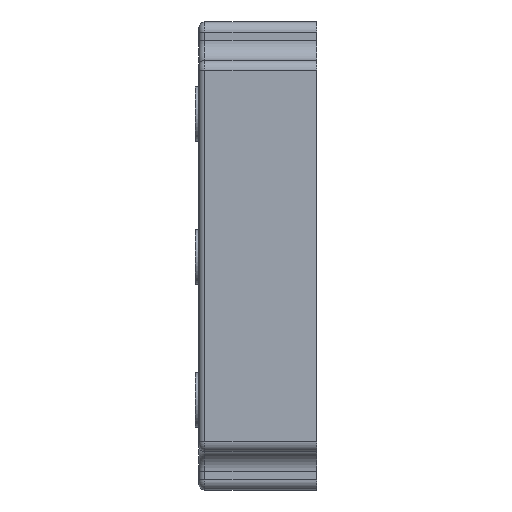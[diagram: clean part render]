
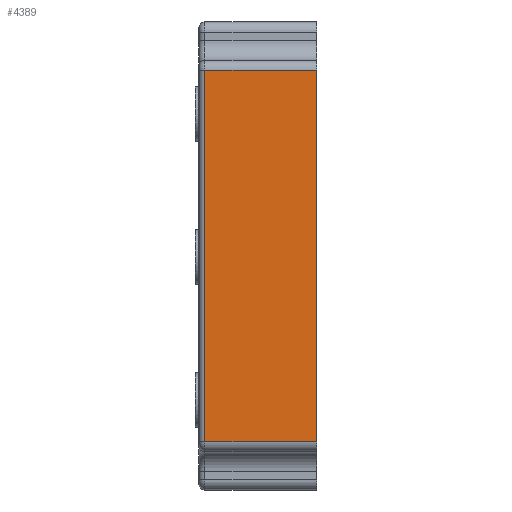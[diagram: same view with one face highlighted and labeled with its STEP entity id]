
A CAD part, left-side view. The second image highlights one B-rep face of the part: STEP entity #4389.
In plain terms, the highlighted planar face has unit normal (-1, 0, 0).
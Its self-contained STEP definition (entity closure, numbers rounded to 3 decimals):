
#167 = VECTOR ( 'NONE', #1446, 1000. ) ;
#204 = LINE ( 'NONE', #5096, #700 ) ;
#244 = FACE_OUTER_BOUND ( 'NONE', #3914, .T. ) ;
#310 = CARTESIAN_POINT ( 'NONE',  ( -137.5, -3., -92. ) ) ;
#332 = VERTEX_POINT ( 'NONE', #4521 ) ;
#359 = LINE ( 'NONE', #310, #167 ) ;
#634 = LINE ( 'NONE', #4848, #4259 ) ;
#700 = VECTOR ( 'NONE', #1145, 1000. ) ;
#1145 = DIRECTION ( 'NONE',  ( 0., 1., 0. ) ) ;
#1209 = DIRECTION ( 'NONE',  ( 0., 0., -1. ) ) ;
#1234 = VECTOR ( 'NONE', #2105, 1000. ) ;
#1372 = VERTEX_POINT ( 'NONE', #4178 ) ;
#1374 = AXIS2_PLACEMENT_3D ( 'NONE', #2645, #1430, #4630 ) ;
#1430 = DIRECTION ( 'NONE',  ( -1., 0., 0. ) ) ;
#1446 = DIRECTION ( 'NONE',  ( 0., 0., -1. ) ) ;
#1886 = ORIENTED_EDGE ( 'NONE', *, *, #4192, .F. ) ;
#1888 = ORIENTED_EDGE ( 'NONE', *, *, #2894, .T. ) ;
#2105 = DIRECTION ( 'NONE',  ( 0., 1., 0. ) ) ;
#2633 = PLANE ( 'NONE',  #1374 ) ;
#2645 = CARTESIAN_POINT ( 'NONE',  ( -137.5, -7.5, 92. ) ) ;
#2839 = ORIENTED_EDGE ( 'NONE', *, *, #3060, .F. ) ;
#2894 = EDGE_CURVE ( 'NONE', #332, #1372, #204, .T. ) ;
#3060 = EDGE_CURVE ( 'NONE', #332, #4707, #634, .T. ) ;
#3366 = CARTESIAN_POINT ( 'NONE',  ( -137.5, -3., -92. ) ) ;
#3370 = LINE ( 'NONE', #4520, #1234 ) ;
#3628 = CARTESIAN_POINT ( 'NONE',  ( -137.5, -58.5, -92. ) ) ;
#3914 = EDGE_LOOP ( 'NONE', ( #1888, #4395, #1886, #2839 ) ) ;
#4178 = CARTESIAN_POINT ( 'NONE',  ( -137.5, -3., 92. ) ) ;
#4192 = EDGE_CURVE ( 'NONE', #4707, #4847, #3370, .T. ) ;
#4259 = VECTOR ( 'NONE', #1209, 1000. ) ;
#4389 = ADVANCED_FACE ( 'NONE', ( #244 ), #2633, .T. ) ;
#4395 = ORIENTED_EDGE ( 'NONE', *, *, #5070, .T. ) ;
#4520 = CARTESIAN_POINT ( 'NONE',  ( -137.5, -7.5, -92. ) ) ;
#4521 = CARTESIAN_POINT ( 'NONE',  ( -137.5, -58.5, 92. ) ) ;
#4630 = DIRECTION ( 'NONE',  ( 0., 0., 1. ) ) ;
#4707 = VERTEX_POINT ( 'NONE', #3628 ) ;
#4847 = VERTEX_POINT ( 'NONE', #3366 ) ;
#4848 = CARTESIAN_POINT ( 'NONE',  ( -137.5, -58.5, 92. ) ) ;
#5070 = EDGE_CURVE ( 'NONE', #1372, #4847, #359, .T. ) ;
#5096 = CARTESIAN_POINT ( 'NONE',  ( -137.5, -7.5, 92. ) ) ;
